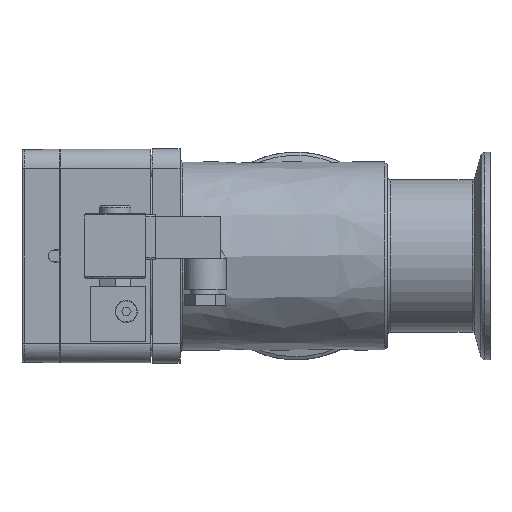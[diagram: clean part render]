
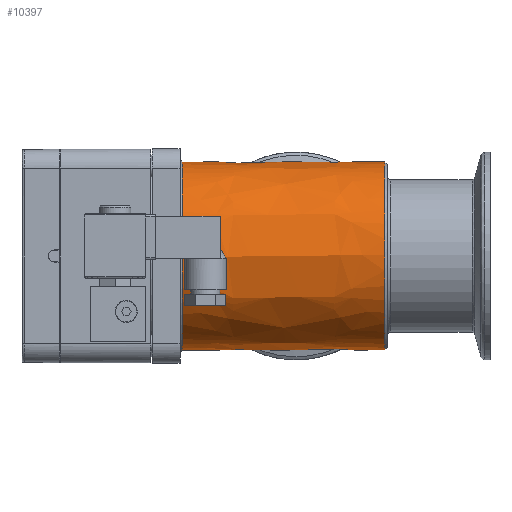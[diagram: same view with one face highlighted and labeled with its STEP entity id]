
A CAD part, left-side view. The second image highlights one B-rep face of the part: STEP entity #10397.
In plain terms, the highlighted free-form (B-spline) face has degree [2, 1] with [7, 2] control points.
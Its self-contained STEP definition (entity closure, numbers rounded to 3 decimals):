
#9708=CARTESIAN_POINT('V33',(38.,33.95,
   0.0));
#9709=VERTEX_POINT('V33',#9708);
#9717=CARTESIAN_POINT('E57',(38.,33.95,
   0.));
#9718=CARTESIAN_POINT('E57',(38.,33.95,
   58.803));
#9719=CARTESIAN_POINT('E57',(38.,-16.975,
   29.402));
#9720=CARTESIAN_POINT('E57',(38.,-67.9,
   0.));
#9721=CARTESIAN_POINT('E57',(38.,-16.975,
   -29.402));
#9722=CARTESIAN_POINT('E57',(38.,33.95,
   -58.803));
#9723=CARTESIAN_POINT('E57',(38.,33.95,
   0.));
#9731=(BOUNDED_CURVE()B_SPLINE_CURVE(2,(#9717,#9718,#9719,#9720,
   #9721,#9722,#9723),.CIRCULAR_ARC.,.T.,.U.)
   B_SPLINE_CURVE_WITH_KNOTS((3,2,2,3),(2.0,50.798,
   99.595,148.393),.UNSPECIFIED.)CURVE()
   GEOMETRIC_REPRESENTATION_ITEM()RATIONAL_B_SPLINE_CURVE((1.0,
   0.5,1.0,0.5,1.0,0.5,1.0)
   )REPRESENTATION_ITEM('E57'));
#9732=EDGE_CURVE('E57',#9709,#9709,#9731,.T.);
#10269=CARTESIAN_POINT('V18',(111.025,33.95,
   0.0));
#10270=VERTEX_POINT('V18',#10269);
#10278=CARTESIAN_POINT('E28',(111.025,33.95,
   0.0));
#10279=CARTESIAN_POINT('E28',(111.025,33.95,
   -58.803));
#10280=CARTESIAN_POINT('E28',(111.025,
   -16.975,-29.402));
#10281=CARTESIAN_POINT('E28',(111.025,
   -67.9,0.));
#10282=CARTESIAN_POINT('E28',(111.025,
   -16.975,29.402));
#10283=CARTESIAN_POINT('E28',(111.025,33.95,
   58.803));
#10284=CARTESIAN_POINT('E28',(111.025,33.95,
   0.0));
#10292=(BOUNDED_CURVE()B_SPLINE_CURVE(2,(#10278,#10279,#10280,
   #10281,#10282,#10283,#10284),.CIRCULAR_ARC.,.T.,.U.)
   B_SPLINE_CURVE_WITH_KNOTS((3,2,2,3),(0.0,108.528,
   217.056,325.585),.UNSPECIFIED.)CURVE()
   GEOMETRIC_REPRESENTATION_ITEM()RATIONAL_B_SPLINE_CURVE((1.0,
   0.5,1.0,0.5,1.0,0.5,1.0)
   )REPRESENTATION_ITEM('E28'));
#10293=EDGE_CURVE('E28',#10270,#10270,#10292,.T.);
#10298=CARTESIAN_POINT('F26',(37.,33.95,
   0.0));
#10299=CARTESIAN_POINT('F26',(37.,33.95,
   58.803));
#10300=CARTESIAN_POINT('F26',(37.,-16.975,
   29.402));
#10301=CARTESIAN_POINT('F26',(37.,-67.9,
   0.));
#10302=CARTESIAN_POINT('F26',(37.,-16.975,
   -29.402));
#10303=CARTESIAN_POINT('F26',(37.,33.95,
   -58.803));
#10304=CARTESIAN_POINT('F26',(37.,33.95,
   0.0));
#10305=CARTESIAN_POINT('F26',(111.025,33.95,
   0.0));
#10306=CARTESIAN_POINT('F26',(111.025,33.95,
   58.803));
#10307=CARTESIAN_POINT('F26',(111.025,
   -16.975,29.402));
#10308=CARTESIAN_POINT('F26',(111.025,
   -67.9,0.));
#10309=CARTESIAN_POINT('F26',(111.025,
   -16.975,-29.402));
#10310=CARTESIAN_POINT('F26',(111.025,33.95,
   -58.803));
#10311=CARTESIAN_POINT('F26',(111.025,33.95,
   0.0));
#10319=(BOUNDED_SURFACE()B_SPLINE_SURFACE(2,1,((#10298,#10305),(
   #10299,#10306),(#10300,#10307),(#10301,#10308),(#10302,
   #10309),(#10303,#10310),(#10304,#10311)),.CYLINDRICAL_SURF.,
   .T.,.F.,.U.)B_SPLINE_SURFACE_WITH_KNOTS((3,2,2,3),(2,2),(0.0,
   1.589,3.177,4.766),(0.0,1.0),
   .UNSPECIFIED.)GEOMETRIC_REPRESENTATION_ITEM()
   RATIONAL_B_SPLINE_SURFACE(((1.0,1.0),(0.5,
   0.5),(1.0,1.0),(0.5,
   0.5),(1.0,1.0),(0.5,
   0.5),(1.0,1.0)))REPRESENTATION_ITEM('F26')SURFACE(
   ));
#10320=ORIENTED_EDGE('E57',*,*,#9732,.F.);
#10321=CARTESIAN_POINT('V31',(45.,33.95,
   0.0));
#10322=VERTEX_POINT('V31',#10321);
#10323=CARTESIAN_POINT('E50',(45.,33.95,
   0.0));
#10324=CARTESIAN_POINT('E50',(38.,33.95,
   0.0));
#10325=B_SPLINE_CURVE_WITH_KNOTS('E50',1,(#10323,#10324),
   .POLYLINE_FORM.,.F.,.U.,(2,2),(0.892,
   0.986),.UNSPECIFIED.);
#10326=EDGE_CURVE('E50',#10322,#9709,#10325,.T.);
#10327=ORIENTED_EDGE('E50',*,*,#10326,.F.);
#10328=CARTESIAN_POINT('V30',(70.,22.97,
   25.));
#10329=VERTEX_POINT('V30',#10328);
#10330=CARTESIAN_POINT('E49',(70.,22.97,
   25.));
#10331=CARTESIAN_POINT('E49',(69.194,22.97,
   25.));
#10332=CARTESIAN_POINT('E49',(68.392,23.012,
   24.961));
#10333=CARTESIAN_POINT('E49',(64.529,23.415,
   24.588));
#10334=CARTESIAN_POINT('E49',(61.719,24.315,
   23.745));
#10335=CARTESIAN_POINT('E49',(55.728,26.853,
   20.895));
#10336=CARTESIAN_POINT('E49',(52.376,28.886,
   18.277));
#10337=CARTESIAN_POINT('E49',(47.986,31.787,
   12.232));
#10338=CARTESIAN_POINT('E49',(46.451,32.891,
   9.169));
#10339=CARTESIAN_POINT('E49',(45.213,33.792,
   3.752));
#10340=CARTESIAN_POINT('E49',(45.,33.95,
   1.886));
#10341=CARTESIAN_POINT('E49',(45.,33.95,
   0.0));
#10342=B_SPLINE_CURVE_WITH_KNOTS('E49',3,(#10330,#10331,#10332,
   #10333,#10334,#10335,#10336,#10337,#10338,#10339,#10340,#10341),
   .UNSPECIFIED.,.F.,.U.,(4,2,2,2,2,4),(0.0,0.062,
   0.301,0.645,0.881,1.0),
   .UNSPECIFIED.);
#10343=EDGE_CURVE('E49',#10329,#10322,#10342,.T.);
#10344=ORIENTED_EDGE('E49',*,*,#10343,.F.);
#10345=CARTESIAN_POINT('V32',(95.,33.95,
   0.0));
#10346=VERTEX_POINT('V32',#10345);
#10347=CARTESIAN_POINT('E53',(95.,33.95,
   0.0));
#10348=CARTESIAN_POINT('E53',(95.,33.95,
   1.622));
#10349=CARTESIAN_POINT('E53',(94.842,33.833,
   3.23));
#10350=CARTESIAN_POINT('E53',(93.819,33.086,
   8.457));
#10351=CARTESIAN_POINT('E53',(92.366,32.035,
   11.572));
#10352=CARTESIAN_POINT('E53',(88.345,29.346,
   17.476));
#10353=CARTESIAN_POINT('E53',(85.368,27.496,
   20.048));
#10354=CARTESIAN_POINT('E53',(79.872,24.916,
   23.124));
#10355=CARTESIAN_POINT('E53',(77.277,23.941,
   24.082));
#10356=CARTESIAN_POINT('E53',(73.032,23.123,
   24.861));
#10357=CARTESIAN_POINT('E53',(71.528,22.97,
   25.));
#10358=CARTESIAN_POINT('E53',(70.,22.97,
   25.));
#10359=B_SPLINE_CURVE_WITH_KNOTS('E53',3,(#10347,#10348,#10349,
   #10350,#10351,#10352,#10353,#10354,#10355,#10356,#10357,#10358),
   .UNSPECIFIED.,.F.,.U.,(4,2,2,2,2,4),(0.0,0.099,
   0.33,0.643,0.876,1.0),
   .UNSPECIFIED.);
#10360=EDGE_CURVE('E53',#10346,#10329,#10359,.T.);
#10361=ORIENTED_EDGE('E53',*,*,#10360,.F.);
#10362=CARTESIAN_POINT('E52',(111.025,33.95,
   0.0));
#10363=CARTESIAN_POINT('E52',(95.,33.95,
   0.0));
#10364=B_SPLINE_CURVE_WITH_KNOTS('E52',1,(#10362,#10363),
   .POLYLINE_FORM.,.F.,.U.,(2,2),(0.0,0.216),
   .UNSPECIFIED.);
#10365=EDGE_CURVE('E52',#10270,#10346,#10364,.T.);
#10366=ORIENTED_EDGE('E52',*,*,#10365,.F.);
#10367=ORIENTED_EDGE('F15',*,*,#10293,.F.);
#10368=ORIENTED_EDGE('E52',*,*,#10365,.T.);
#10369=CARTESIAN_POINT('E51',(45.,33.95,
   0.0));
#10370=CARTESIAN_POINT('E51',(45.,33.95,
   -2.391));
#10371=CARTESIAN_POINT('E51',(45.342,33.696,
   -4.743));
#10372=CARTESIAN_POINT('E51',(46.468,32.882,
   -8.605));
#10373=CARTESIAN_POINT('E51',(47.088,32.438,
   -10.134));
#10374=CARTESIAN_POINT('E51',(49.802,30.554,
   -15.33));
#10375=CARTESIAN_POINT('E51',(52.539,28.745,
   -18.255));
#10376=CARTESIAN_POINT('E51',(58.41,25.609,
   -22.439));
#10377=CARTESIAN_POINT('E51',(61.776,24.142,
   -23.89));
#10378=CARTESIAN_POINT('E51',(66.996,23.11,
   -24.874));
#10379=CARTESIAN_POINT('E51',(68.653,22.947,
   -25.021));
#10380=CARTESIAN_POINT('E51',(71.941,22.996,
   -24.976));
#10381=CARTESIAN_POINT('E51',(73.509,23.188,
   -24.802));
#10382=CARTESIAN_POINT('E51',(77.872,24.123,
   -23.903));
#10383=CARTESIAN_POINT('E51',(80.535,25.184,
   -22.844));
#10384=CARTESIAN_POINT('E51',(85.904,27.818,
   -19.599));
#10385=CARTESIAN_POINT('E51',(88.695,29.572,
   -17.062));
#10386=CARTESIAN_POINT('E51',(92.37,32.043,
   -11.49));
#10387=CARTESIAN_POINT('E51',(93.647,32.963,
   -8.741));
#10388=CARTESIAN_POINT('E51',(94.787,33.792,
   -3.752));
#10389=CARTESIAN_POINT('E51',(95.,33.95,
   -1.886));
#10390=CARTESIAN_POINT('E51',(95.,33.95,
   0.0));
#10391=B_SPLINE_CURVE_WITH_KNOTS('E51',3,(#10369,#10370,#10371,
   #10372,#10373,#10374,#10375,#10376,#10377,#10378,#10379,#10380,
   #10381,#10382,#10383,#10384,#10385,#10386,#10387,#10388,#10389,
   #10390),.UNSPECIFIED.,.F.,.U.,(4,2,2,2,2,2,2,2,2,2,4),(0.0,
   0.082,0.14,0.292,
   0.442,0.51,0.574,
   0.693,0.84,0.942,1.0),
   .UNSPECIFIED.);
#10392=EDGE_CURVE('E51',#10322,#10346,#10391,.T.);
#10393=ORIENTED_EDGE('E51',*,*,#10392,.F.);
#10394=ORIENTED_EDGE('E50',*,*,#10326,.T.);
#10395=EDGE_LOOP('F26',(#10320,#10327,#10344,#10361,#10366,#10367,
   #10368,#10393,#10394));
#10396=FACE_OUTER_BOUND('F26',#10395,.F.);
#10397=ADVANCED_FACE('F26',(#10396),#10319,.T.);
